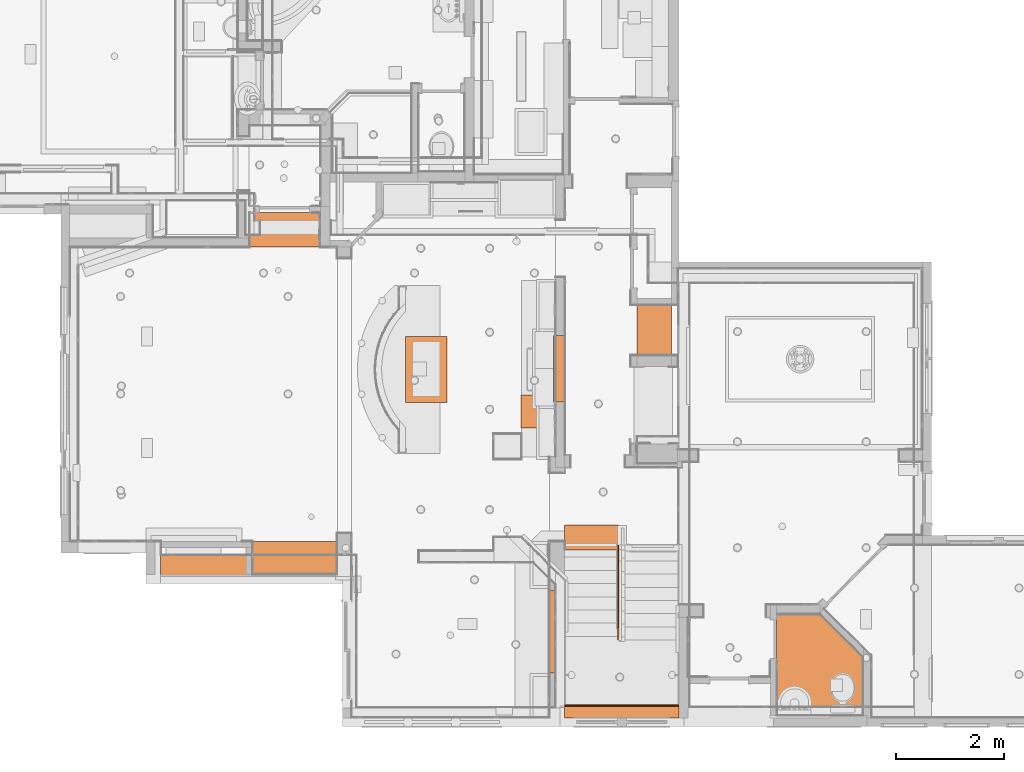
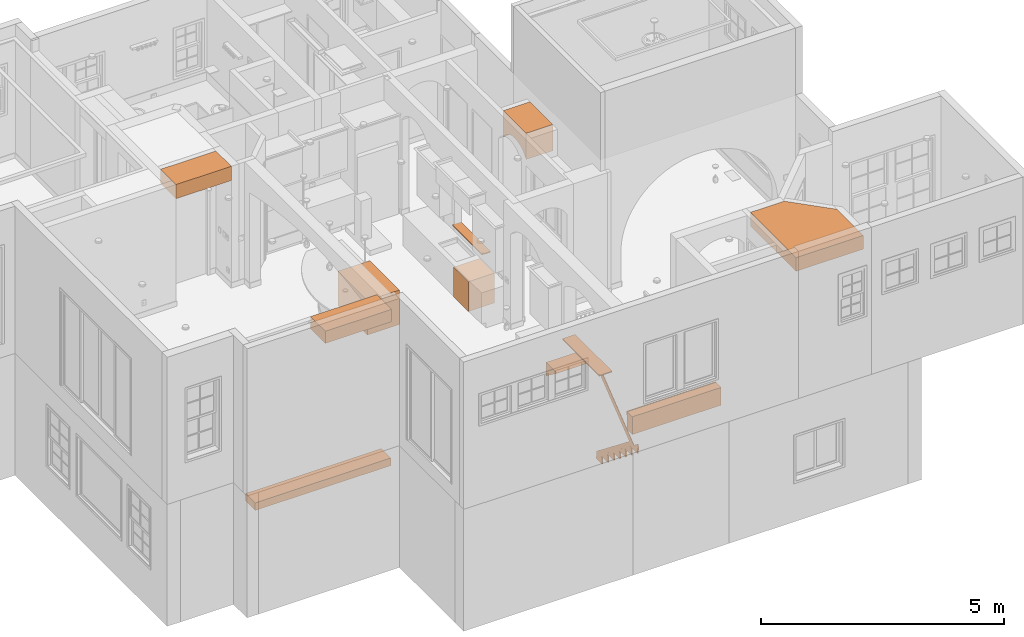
# One storey, part 60 of 81: 13 proxies.
"""IFC2X3 building model written with IfcOpenShell, lengths in feet."""

import ifcopenshell
import ifcopenshell.guid

model = None  # the IFC model being written
_history = None  # IfcOwnerHistory: only IFC2X3 demands one
_inside = {}  # id of a spatial element -> (the spatial element, [elements in it])
_under = {}  # id of a project, library or spatial element -> (it, [spatial elements below it])
_declared = {}  # id of a project -> (the project, [libraries it declares])
_typed = {}  # id of a type object -> (the type object, [elements of that type])
_made_of = {}  # id of a material, layer set ... -> (it, [elements and type objects made of it])


def new_model(schema):
    """Start an empty IFC model of exactly this schema.

    Asked for "IFC4X3", IfcOpenShell would pick the latest addendum, in which some entities
    have other attributes; the version numbers below select the first issue.
    IFC2X3 requires an IfcOwnerHistory on every rooted entity: one is made here for all.
    """
    global model, _history
    if schema == "IFC4X3":
        model = ifcopenshell.file(schema_version=(4, 3, 0, 0))
    else:
        model = ifcopenshell.file(schema=schema)
    _inside.clear()
    _under.clear()
    _declared.clear()
    _typed.clear()
    _made_of.clear()
    _history = None
    if model.schema == "IFC2X3":
        org = make("IfcOrganization", Name="unknown")
        user = make(
            "IfcPersonAndOrganization",
            ThePerson=make("IfcPerson", FamilyName="unknown"),
            TheOrganization=org,
        )
        app = make(
            "IfcApplication",
            ApplicationDeveloper=org,
            Version="unknown",
            ApplicationFullName="unknown",
            ApplicationIdentifier="unknown",
        )
        _history = make(
            "IfcOwnerHistory",
            OwningUser=user,
            OwningApplication=app,
            ChangeAction="ADDED",
            CreationDate=0,
        )
    return model


def make(cls, **values):
    """One entity of the class cls with the attributes given. An attribute that is None is left unset."""
    return model.create_entity(
        cls, **{name: value for name, value in values.items() if value is not None}
    )


def entity(cls, *values):
    """Any entity or typed value of the class cls, its attributes in the order of the schema. None: left unset."""
    e = model.create_entity(cls)
    for i, value in enumerate(values):
        if value is not None:
            e[i] = value
    return e


def rooted(cls, **values):
    """An entity with a GlobalId (a new one), such as an element, a storey or a relation."""
    return make(cls, GlobalId=ifcopenshell.guid.new(), OwnerHistory=_history, **values)


def si_unit(unit_type, name, prefix=None):
    """IfcSIUnit, for example si_unit("LENGTHUNIT", "METRE", prefix="MILLI")."""
    return make("IfcSIUnit", UnitType=unit_type, Prefix=prefix, Name=name)


def converted_unit(unit_type, name, factor, base, dimensions=None, offset=None):
    """IfcConversionBasedUnit, such as the inch: factor (a typed value) times the base unit."""
    return make(
        "IfcConversionBasedUnit"
        if offset is None
        else "IfcConversionBasedUnitWithOffset",
        ConversionOffset=offset,
        Dimensions=None
        if dimensions is None
        else entity("IfcDimensionalExponents", *dimensions),
        UnitType=unit_type,
        Name=name,
        ConversionFactor=make(
            "IfcMeasureWithUnit", ValueComponent=factor, UnitComponent=base
        ),
    )


def derived_unit(unit_type, elements):
    """IfcDerivedUnit: a product of units, each with its exponent."""
    return make(
        "IfcDerivedUnit",
        Elements=[
            make("IfcDerivedUnitElement", Unit=unit, Exponent=power)
            for unit, power in elements
        ],
        UnitType=unit_type,
    )


def assignment(units):
    """IfcUnitAssignment: the units of a project."""
    return None if units is None else make("IfcUnitAssignment", Units=units)


def point(xyz):
    """IfcCartesianPoint."""
    return None if xyz is None else make("IfcCartesianPoint", Coordinates=xyz)


def direction(xyz):
    """IfcDirection."""
    return None if xyz is None else make("IfcDirection", DirectionRatios=xyz)


def frame(location, z_axis=None, x_axis=None):
    """IfcAxis2Placement3D, a coordinate frame: its origin and axes. An axis left out is left unset."""
    return make(
        "IfcAxis2Placement3D",
        Location=point(location),
        Axis=direction(z_axis),
        RefDirection=direction(x_axis),
    )


def frame_2d(location, x_axis=None):
    """IfcAxis2Placement2D, a coordinate frame in the plane: its origin and x axis."""
    return make(
        "IfcAxis2Placement2D", Location=point(location), RefDirection=direction(x_axis)
    )


def origin():
    """The frame at (0, 0, 0) with its axes left unset."""
    return frame((0.0, 0.0, 0.0))


def origin_2d_with_axis():
    """The frame at (0, 0) in the plane with the x axis (1, 0) written out."""
    return frame_2d((0.0, 0.0), x_axis=(1.0, 0.0))


def place(relative_to, where):
    """IfcLocalPlacement: puts the frame where relative to a parent placement (None: the world)."""
    return make(
        "IfcLocalPlacement", PlacementRelTo=relative_to, RelativePlacement=where
    )


def context(
    kind, dimensions, precision=None, world=None, true_north=None, identifier=None
):
    """IfcGeometricRepresentationContext, for example the 3D "Model" context."""
    return make(
        "IfcGeometricRepresentationContext",
        ContextIdentifier=identifier,
        ContextType=kind,
        CoordinateSpaceDimension=dimensions,
        Precision=precision,
        WorldCoordinateSystem=world,
        TrueNorth=true_north,
    )


def subcontext(parent, identifier, kind, view, scale=None):
    """IfcGeometricRepresentationSubContext, for example "Body" below "Model"."""
    return make(
        "IfcGeometricRepresentationSubContext",
        ContextIdentifier=identifier,
        ContextType=kind,
        ParentContext=parent,
        TargetScale=scale,
        TargetView=view,
    )


def project(units=None, contexts=None):
    """IfcProject with its units and contexts."""
    return rooted(
        "IfcProject",
        Name="project",
        RepresentationContexts=contexts,
        UnitsInContext=assignment(units),
    )


def spatial(cls, under=None, at=None, **own):
    """A site, building, storey or space (cls), placed at a placement, below another one or the project."""
    s = rooted(cls, ObjectPlacement=at, **own)
    if under is not None:
        _under.setdefault(under.id(), (under, []))[1].append(s)
    return s


def polyline(points):
    """IfcPolyline through the points."""
    return make("IfcPolyline", Points=[point(p) for p in points])


def circle_curve(where, radius):
    """IfcCircle in the frame where."""
    return make("IfcCircle", Position=where, Radius=radius)


def parameter(value):
    """IfcParameterValue: where a trimmed curve begins or ends, as a parameter of its basis curve."""
    return model.create_entity("IfcParameterValue", value)


def trimmed(basis, trim1, trim2, sense, master):
    """IfcTrimmedCurve: the piece of a basis curve between two trims."""
    return make(
        "IfcTrimmedCurve",
        BasisCurve=basis,
        Trim1=trim1,
        Trim2=trim2,
        SenseAgreement=sense,
        MasterRepresentation=master,
    )


def segment(curve, same_sense, transition):
    """IfcCompositeCurveSegment."""
    return make(
        "IfcCompositeCurveSegment",
        Transition=transition,
        SameSense=same_sense,
        ParentCurve=curve,
    )


def composite_curve(segments, self_intersect=None):
    """IfcCompositeCurve: segments joined end to end."""
    return make("IfcCompositeCurve", Segments=segments, SelfIntersect=self_intersect)


def profile(cls, at=None, kind="AREA", **sizes):
    """A parametric profile (cls). Its sizes go by their IFC names, for example OverallWidth=200.0."""
    return make(cls, ProfileType=kind, Position=at, **sizes)


def rectangle(**sizes):
    """IfcRectangleProfileDef."""
    return profile("IfcRectangleProfileDef", **sizes)


def outline(outer, holes=None, kind="AREA"):
    """IfcArbitraryClosedProfileDef: a profile drawn as a closed curve; with holes, ...WithVoids."""
    if holes is None:
        return make("IfcArbitraryClosedProfileDef", ProfileType=kind, OuterCurve=outer)
    return make(
        "IfcArbitraryProfileDefWithVoids",
        ProfileType=kind,
        OuterCurve=outer,
        InnerCurves=holes,
    )


def extrude(swept, where, along, depth):
    """IfcExtrudedAreaSolid: the profile swept, set in the frame where, extruded along a direction by depth."""
    return make(
        "IfcExtrudedAreaSolid",
        SweptArea=swept,
        Position=where,
        ExtrudedDirection=direction(along),
        Depth=depth,
    )


def shape(context_of_items, identifier, shape_type, items):
    """IfcShapeRepresentation: the items that make up one representation, for example the "Body"."""
    return make(
        "IfcShapeRepresentation",
        ContextOfItems=context_of_items,
        RepresentationIdentifier=identifier,
        RepresentationType=shape_type,
        Items=items,
    )


def source(mapping_origin, context_of_items, identifier, shape_type, items):
    """IfcRepresentationMap: a shape defined once, which mapped items show again and again."""
    return make(
        "IfcRepresentationMap",
        MappingOrigin=mapping_origin,
        MappedRepresentation=shape(context_of_items, identifier, shape_type, items),
    )


def transform(
    local_origin,
    x_axis=None,
    y_axis=None,
    z_axis=None,
    scale=None,
    scale2=None,
    scale3=None,
    uniform=True,
):
    """IfcCartesianTransformationOperator3D, or its non-uniform kind. x_axis, y_axis, z_axis: its Axis1, 2, 3."""
    if uniform:
        return make(
            "IfcCartesianTransformationOperator3D",
            Axis1=direction(x_axis),
            Axis2=direction(y_axis),
            LocalOrigin=point(local_origin),
            Scale=scale,
            Axis3=direction(z_axis),
        )
    return make(
        "IfcCartesianTransformationOperator3DnonUniform",
        Axis1=direction(x_axis),
        Axis2=direction(y_axis),
        LocalOrigin=point(local_origin),
        Scale=scale,
        Axis3=direction(z_axis),
        Scale2=scale2,
        Scale3=scale3,
    )


def mapped(mapping_source, mapping_target):
    """IfcMappedItem: shows the shape of a source again, moved by a transform."""
    return make(
        "IfcMappedItem", MappingSource=mapping_source, MappingTarget=mapping_target
    )


def material(Name=None, Category=None):
    """IfcMaterial."""
    return make("IfcMaterial", Name=Name, Category=Category)


def made_of(thing, what):
    """Note that an element or type object is made of a material, layer set ...; save() writes the relation."""
    if what is not None:
        _made_of.setdefault(what.id(), (what, []))[1].append(thing)
    return thing


def type_object(cls, material=None, **own):
    """A type object (cls), such as IfcWallType, which elements share."""
    return made_of(rooted(cls, **own), material)


def type_shapes(of_type, sources):
    """Give a type object the sources (RepresentationMaps) that its elements show as mapped items."""
    of_type.RepresentationMaps = sources


def element(
    cls,
    number,
    at=None,
    inside=None,
    cuts=None,
    type_object=None,
    material=None,
    context=None,
    identifier="Body",
    shape_type=None,
    held_by="IfcProductDefinitionShape",
    body=None,
    shapes=None,
    **own,
):
    """One element of the class cls, such as IfcWall. Its Tag is "e" and its number.

    at: its placement. inside: the storey or other place that contains it. cuts: it is an
    opening in that element (IfcRelVoidsElement). A single representation is given by context,
    identifier, shape_type and body (its items); several are given by shapes. held_by: the class
    of the entity that holds the representations. save() writes the other relations.
    """
    e = rooted(cls, Tag="e%d" % number, ObjectPlacement=at, **own)
    if body is not None:
        shapes = [shape(context, identifier, shape_type, body)]
    if shapes is not None:
        e.Representation = make(held_by, Representations=shapes)
    if inside is not None:
        _inside.setdefault(inside.id(), (inside, []))[1].append(e)
    if cuts is not None:
        rooted(
            "IfcRelVoidsElement", RelatingBuildingElement=cuts, RelatedOpeningElement=e
        )
    if type_object is not None:
        _typed.setdefault(type_object.id(), (type_object, []))[1].append(e)
    return made_of(e, material)


def aggregate(whole, parts):
    """IfcRelAggregates: a whole, such as a stair, and the parts it consists of."""
    return rooted("IfcRelAggregates", RelatingObject=whole, RelatedObjects=parts)


def save(model, path):
    """Write the relations noted so far, then the file.

    IfcRelAggregates (storeys below a building ...), IfcRelContainedInSpatialStructure (elements
    in a storey), IfcRelDefinesByType, IfcRelAssociatesMaterial and IfcRelDeclares: one each for
    every whole, place, type object, material and project.
    """
    for whole, parts in _under.values():
        aggregate(whole, parts)
    for where, things in _inside.values():
        rooted(
            "IfcRelContainedInSpatialStructure",
            RelatedElements=things,
            RelatingStructure=where,
        )
    for kind, things in _typed.values():
        rooted("IfcRelDefinesByType", RelatedObjects=things, RelatingType=kind)
    for what, things in _made_of.values():
        rooted("IfcRelAssociatesMaterial", RelatedObjects=things, RelatingMaterial=what)
    for by, libraries in _declared.values():
        rooted("IfcRelDeclares", RelatingContext=by, RelatedDefinitions=libraries)
    model.write(path)


model = new_model("IFC2X3")

# Units and contexts
model_context = context("Model", 3, precision=0.0001, world=origin(), true_north=direction((6.12303176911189e-17, 1.0)))
body_context = subcontext(model_context, "Body", "Model", "MODEL_VIEW")
ifc_project = project(units=[converted_unit("LENGTHUNIT", "FOOT", entity("IfcRatioMeasure", 0.3048), si_unit("LENGTHUNIT", "METRE"), dimensions=[1, 0, 0, 0, 0, 0, 0]), converted_unit("AREAUNIT", "SQUARE FOOT", entity("IfcRatioMeasure", 0.09290304), si_unit("AREAUNIT", "SQUARE_METRE"), dimensions=[2, 0, 0, 0, 0, 0, 0]), converted_unit("VOLUMEUNIT", "CUBIC FOOT", entity("IfcRatioMeasure", 0.028316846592), si_unit("VOLUMEUNIT", "CUBIC_METRE"), dimensions=[3, 0, 0, 0, 0, 0, 0]), converted_unit("PLANEANGLEUNIT", "DEGREE", entity("IfcRatioMeasure", 0.0174532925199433), si_unit("PLANEANGLEUNIT", "RADIAN"), dimensions=[0, 0, 0, 0, 0, 0, 0]), si_unit("MASSUNIT", "GRAM", prefix="KILO"), derived_unit("MASSDENSITYUNIT", [(si_unit("MASSUNIT", "GRAM", prefix="KILO"), 1), (si_unit("LENGTHUNIT", "METRE"), -3)]), derived_unit("MOMENTOFINERTIAUNIT", [(si_unit("LENGTHUNIT", "METRE"), 4)]), si_unit("TIMEUNIT", "SECOND"), si_unit("FREQUENCYUNIT", "HERTZ"), si_unit("THERMODYNAMICTEMPERATUREUNIT", "DEGREE_CELSIUS"), derived_unit("THERMALTRANSMITTANCEUNIT", [(si_unit("MASSUNIT", "GRAM", prefix="KILO"), 1), (si_unit("THERMODYNAMICTEMPERATUREUNIT", "KELVIN"), -1), (si_unit("TIMEUNIT", "SECOND"), -3)]), derived_unit("VOLUMETRICFLOWRATEUNIT", [(si_unit("LENGTHUNIT", "METRE"), 3), (si_unit("TIMEUNIT", "SECOND"), -1)]), si_unit("ELECTRICCURRENTUNIT", "AMPERE"), si_unit("ELECTRICVOLTAGEUNIT", "VOLT"), si_unit("POWERUNIT", "WATT"), si_unit("FORCEUNIT", "NEWTON"), si_unit("ILLUMINANCEUNIT", "LUX"), si_unit("LUMINOUSFLUXUNIT", "LUMEN"), si_unit("LUMINOUSINTENSITYUNIT", "CANDELA"), derived_unit("USERDEFINED", [(si_unit("MASSUNIT", "GRAM", prefix="KILO"), -1), (si_unit("LENGTHUNIT", "METRE"), -2), (si_unit("TIMEUNIT", "SECOND"), 3), (si_unit("LUMINOUSFLUXUNIT", "LUMEN"), 1)]), derived_unit("LINEARVELOCITYUNIT", [(si_unit("LENGTHUNIT", "METRE"), 1), (si_unit("TIMEUNIT", "SECOND"), -1)]), si_unit("PRESSUREUNIT", "PASCAL"), derived_unit("USERDEFINED", [(si_unit("LENGTHUNIT", "METRE"), -2), (si_unit("MASSUNIT", "GRAM", prefix="KILO"), 1), (si_unit("TIMEUNIT", "SECOND"), -2)]), derived_unit("LINEARFORCEUNIT", [(si_unit("MASSUNIT", "GRAM", prefix="KILO"), 1), (si_unit("LENGTHUNIT", "METRE"), 1), (si_unit("TIMEUNIT", "SECOND"), -2), (si_unit("LENGTHUNIT", "METRE"), -1)]), derived_unit("PLANARFORCEUNIT", [(si_unit("MASSUNIT", "GRAM", prefix="KILO"), 1), (si_unit("LENGTHUNIT", "METRE"), 1), (si_unit("TIMEUNIT", "SECOND"), -2), (si_unit("LENGTHUNIT", "METRE"), -2)])], contexts=[model_context])

# Site, building, storey
site_placement = place(None, origin())
site = spatial("IfcSite", under=ifc_project, at=site_placement, Name="Default", CompositionType="ELEMENT")
building_placement = place(site_placement, origin())
building = spatial("IfcBuilding", under=site, at=building_placement, CompositionType="ELEMENT")
storey_placement = place(building_placement, origin())
storey = spatial("IfcBuildingStorey", under=building, at=storey_placement, Name="First floor", CompositionType="ELEMENT", Elevation=0.0)

# Proxies
ifc_material = material(Name="Default New Material")
building_element_proxy_type_1 = type_object("IfcBuildingElementProxyType", Name="Generic Models 7:Generic Models 7", PredefinedType="NOTDEFINED", material=ifc_material)
shared_shape_1 = source(origin(), body_context, "Body", "SweptSolid", [
    extrude(outline(polyline([(-3.79772185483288, -0.262282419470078), (3.41282601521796, -0.262282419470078), (3.27919458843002, -0.0924508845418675), (3.34468506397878, -0.0409199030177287), (3.16800749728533, 0.183618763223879), (3.14457551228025, -0.0128099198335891), (2.84666202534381, 0.365806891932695), (2.15433428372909, -0.178949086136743), (2.11568604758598, -0.129831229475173), (2.1296455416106, -0.0128097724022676), (1.83173205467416, 0.365807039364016), (1.13940393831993, -0.178949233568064), (1.10075570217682, -0.129831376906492), (1.11471519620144, -0.0128099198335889), (0.816801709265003, 0.365806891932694), (0.124473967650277, -0.178949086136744), (0.085825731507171, -0.129831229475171), (0.0997852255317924, -0.0128097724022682), (-0.198128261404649, 0.365807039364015), (-0.890456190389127, -0.178949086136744), (-0.929104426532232, -0.129831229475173), (-0.915144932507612, -0.0128097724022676), (-1.21305841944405, 0.365807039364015), (-1.90538634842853, -0.178949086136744), (-1.94403458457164, -0.129831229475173), (-1.93007509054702, -0.0128097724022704), (-2.22798857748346, 0.365807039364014), (-2.92031641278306, -0.178949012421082), (-2.95896464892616, -0.12983115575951), (-2.94500515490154, -0.0128096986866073), (-3.24291864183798, 0.365807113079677), (-3.89080655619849, -0.143981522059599), (-3.79772185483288, -0.262282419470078)])), frame((16.6666666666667, 7.85323663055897, 3.54802028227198), z_axis=(1.0, 0.0, 0.0), x_axis=(0.0, -0.785885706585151, 0.618371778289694)), (0.0, 0.0, 1.0), 0.0416666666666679),
    extrude(outline(polyline([(-2.64117117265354, -2.66029491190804), (-2.06648934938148, -2.66029491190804), (1.41377970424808, 1.76276222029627), (4.52028716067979, -2.18624603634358), (4.52028716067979, -2.66029491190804), (5.42333804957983, -2.66029491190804), (1.4668319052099, 2.36923604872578), (1.92366585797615, 2.94982411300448), (1.12445382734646, 2.94982411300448), (1.12445382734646, 2.06887191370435), (1.06195382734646, 2.06887191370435), (0.978620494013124, 2.15220524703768), (0.496849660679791, 2.15220524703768), (0.496849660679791, 1.2712525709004), (0.434349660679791, 1.2712525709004), (0.351016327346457, 1.35458590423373), (-0.130754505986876, 1.35458590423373), (-0.130754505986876, 0.473633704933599), (-0.193254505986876, 0.473633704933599), (-0.276587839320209, 0.556967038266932), (-0.758358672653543, 0.556967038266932), (-0.758358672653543, -0.323985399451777), (-0.820858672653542, -0.323985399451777), (-0.904192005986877, -0.240652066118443), (-1.38596283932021, -0.240652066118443), (-1.38596283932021, -1.12160450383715), (-1.44846283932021, -1.12160450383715), (-1.53179617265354, -1.03827117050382), (-2.01356700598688, -1.03827117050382), (-2.01356700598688, -1.91922348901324), (-2.07606700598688, -1.91922348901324), (-2.15940033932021, -1.8358901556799), (-2.64117117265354, -1.8358901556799), (-2.64117117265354, -2.66029491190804)])), frame((16.7083333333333, 8.33970508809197, 3.89637950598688), z_axis=(1.0, 0.0, 0.0), x_axis=(0.0, 0.0, 1.0)), (0.0, 0.0, 1.0), 0.0416666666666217),
])
type_shapes(building_element_proxy_type_1, [shared_shape_1])
proxy_1_placement = place(storey_placement, origin())
element("IfcBuildingElementProxy", 1, at=proxy_1_placement, inside=storey, type_object=building_element_proxy_type_1, material=ifc_material, Name="Generic Models 7:Generic Models 7", ObjectType="Generic Models 7:Generic Models 7", context=body_context, shape_type="MappedRepresentation", body=[
    mapped(shared_shape_1, transform((0.0, 0.0, 0.0), scale=1.0)),
])
building_element_proxy_type_2 = type_object("IfcBuildingElementProxyType", Name="Generic Models 12:Generic Models 12", PredefinedType="NOTDEFINED", material=ifc_material)
shared_shape_2 = source(origin(), body_context, "Body", "SweptSolid", [
    extrude(rectangle(XDim=0.708333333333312, YDim=6.91666666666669, at=frame_2d((1.99840144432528e-15, -8.88178419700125e-16), x_axis=(1.0, 0.0))), frame((16.9166666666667, 0.895833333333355, 10.6666666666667), z_axis=(0.0, 0.0, 1.0), x_axis=(0.0, 1.0, 0.0)), (0.0, 0.0, 1.0), 1.45833333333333),
])
type_shapes(building_element_proxy_type_2, [shared_shape_2])
proxy_2_placement = place(storey_placement, origin())
element("IfcBuildingElementProxy", 2, at=proxy_2_placement, inside=storey, type_object=building_element_proxy_type_2, material=ifc_material, Name="Generic Models 12:Generic Models 12", ObjectType="Generic Models 12:Generic Models 12", context=body_context, shape_type="MappedRepresentation", body=[
    mapped(shared_shape_2, transform((0.0, 0.0, 0.0), scale=1.0)),
])
building_element_proxy_type_3 = type_object("IfcBuildingElementProxyType", Name="Generic Models 23:Generic Models 16", PredefinedType="NOTDEFINED", material=ifc_material)
shared_shape_3 = source(origin(), body_context, "Body", "SweptSolid", [
    extrude(outline(polyline([(-2.98939935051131, -2.62726731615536), (3.17726731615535, -2.62726731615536), (3.17726731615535, 2.62273268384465), (-0.375735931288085, 2.62273268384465), (-2.98939935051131, 0.00906926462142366), (-2.98939935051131, -2.62726731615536)])), frame((28.918933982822, 3.84393398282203, 19.5416666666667), z_axis=(0.0, 0.0, 1.0), x_axis=(0.0, -1.0, 0.0)), (0.0, 0.0, 1.0), 1.125),
])
type_shapes(building_element_proxy_type_3, [shared_shape_3])
proxy_3_placement = place(storey_placement, origin())
element("IfcBuildingElementProxy", 3, at=proxy_3_placement, inside=storey, type_object=building_element_proxy_type_3, material=ifc_material, Name="Generic Models 23:Generic Models 16", ObjectType="Generic Models 23:Generic Models 16", context=body_context, shape_type="MappedRepresentation", body=[
    mapped(shared_shape_3, transform((0.0, 0.0, 0.0), scale=1.0)),
])
building_element_proxy_type_4 = type_object("IfcBuildingElementProxyType", Name="Generic Models 30:Generic Models 30", PredefinedType="NOTDEFINED", material=ifc_material)
shared_shape_4 = source(origin(), body_context, "Body", "SweptSolid", [
    extrude(outline(composite_curve([segment(polyline([(-0.124336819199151, -0.0707537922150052), (0.208996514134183, -0.0707537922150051)]), True, "CONTINUOUS"), segment(trimmed(circle_curve(frame_2d((0.174117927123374, -0.0625657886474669), x_axis=(0.0, 1.0)), 0.0358267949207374), [parameter(256.788626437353)], [parameter(339.140882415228)], True, "PARAMETER"), True, "CONTINUOUS"), segment(polyline([(0.186874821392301, -0.0290871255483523), (0.11972539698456, -0.0290871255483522)]), True, "CONTINUOUS"), segment(polyline([(0.119725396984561, -0.0290871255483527), (0.120046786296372, -0.0208087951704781)]), True, "CONTINUOUS"), segment(polyline([(0.120046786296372, -0.0208087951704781), (0.116445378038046, -0.0141128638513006)]), True, "CONTINUOUS"), segment(polyline([(0.116445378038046, -0.0141128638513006), (0.109414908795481, -0.00880682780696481)]), True, "CONTINUOUS"), segment(polyline([(0.109414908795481, -0.00880682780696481), (0.0994491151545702, -0.00469818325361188)]), True, "CONTINUOUS"), segment(polyline([(0.0994491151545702, -0.00469818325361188), (0.0870417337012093, -0.00159442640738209)]), True, "CONTINUOUS"), segment(polyline([(0.0870417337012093, -0.00159442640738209), (0.0726865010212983, 0.000696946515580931)]), True, "CONTINUOUS"), segment(polyline([(0.0726865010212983, 0.000696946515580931), (0.0568771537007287, 0.00236843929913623)]), True, "CONTINUOUS"), segment(polyline([(0.0568771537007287, 0.00236843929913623), (-0.0110266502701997, 0.00670568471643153)]), True, "CONTINUOUS"), segment(polyline([(-0.0110266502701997, 0.00670568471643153), (-0.026700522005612, 0.00816533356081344)]), True, "CONTINUOUS"), segment(polyline([(-0.026700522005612, 0.00816533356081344), (-0.0409179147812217, 0.0101263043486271)]), True, "CONTINUOUS"), segment(polyline([(-0.0409179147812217, 0.0101263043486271), (-0.0536243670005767, 0.0124944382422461)]), True, "CONTINUOUS"), segment(polyline([(-0.0536243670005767, 0.0124944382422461), (-0.0649408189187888, 0.0150611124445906)]), True, "CONTINUOUS"), segment(polyline([(-0.0649408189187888, 0.0150611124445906), (-0.0838909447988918, 0.0199533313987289)]), True, "CONTINUOUS"), segment(polyline([(-0.0838909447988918, 0.0199533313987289), (-0.091768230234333, 0.0218605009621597)]), True, "CONTINUOUS"), segment(polyline([(-0.091768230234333, 0.0218605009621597), (-0.0987427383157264, 0.023129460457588)]), True, "CONTINUOUS"), segment(polyline([(-0.0987427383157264, 0.023129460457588), (-0.104936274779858, 0.0235510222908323)]), True, "CONTINUOUS"), segment(polyline([(-0.104936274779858, 0.0235510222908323), (-0.11047064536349, 0.0229159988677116)]), True, "CONTINUOUS"), segment(polyline([(-0.11047064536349, 0.0229159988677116), (-0.1154676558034, 0.0210152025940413)]), True, "CONTINUOUS"), segment(polyline([(-0.1154676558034, 0.0210152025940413), (-0.120049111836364, 0.0176394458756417)]), True, "CONTINUOUS"), segment(polyline([(-0.120049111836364, 0.0176394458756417), (-0.124336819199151, 0.0125795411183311)]), True, "CONTINUOUS"), segment(polyline([(-0.124336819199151, 0.0125795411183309), (-0.124336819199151, -0.0707537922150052)]), True, "CONTINUOUS")], self_intersect=False)), frame((13.4583333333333, 1.32075379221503, 12.0006631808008), z_axis=(1.0, 0.0, 0.0), x_axis=(0.0, 0.0, -1.0)), (0.0, 0.0, 1.0), 6.91666666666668),
])
type_shapes(building_element_proxy_type_4, [shared_shape_4])
proxy_4_placement = place(storey_placement, origin())
element("IfcBuildingElementProxy", 4, at=proxy_4_placement, inside=storey, type_object=building_element_proxy_type_4, material=ifc_material, Name="Generic Models 30:Generic Models 30", ObjectType="Generic Models 30:Generic Models 30", context=body_context, shape_type="MappedRepresentation", body=[
    mapped(shared_shape_4, transform((0.0, 0.0, 0.0), scale=1.0)),
])
building_element_proxy_type_5 = type_object("IfcBuildingElementProxyType", Name="Specialty Equipment_1:Specialty Equipment_1", PredefinedType="NOTDEFINED", material=ifc_material)
shared_shape_5 = source(origin(), body_context, "Body", "SweptSolid", [
    extrude(rectangle(XDim=4.0, YDim=2.5, at=origin_2d_with_axis()), frame((0.0, -1.25, 0.0), z_axis=(0.0, 0.0, 1.0), x_axis=(-1.0, 0.0, 0.0)), (0.0, 0.0, 1.0), 2.83333333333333),
])
type_shapes(building_element_proxy_type_5, [shared_shape_5])
proxy_5_placement = place(storey_placement, frame((3.83333333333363, 21.625, 10.6666666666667), z_axis=(0.0, 0.0, 1.0), x_axis=(0.0, 1.0, 0.0)))
element("IfcBuildingElementProxy", 5, at=proxy_5_placement, inside=storey, type_object=building_element_proxy_type_5, material=ifc_material, Name="Specialty Equipment_1:Specialty Equipment_1", ObjectType="Specialty Equipment_1:Specialty Equipment_1", context=body_context, shape_type="MappedRepresentation", body=[
    mapped(shared_shape_5, transform((0.0, 0.0, 0.0), scale=1.0)),
])
building_element_proxy_type_6 = type_object("IfcBuildingElementProxyType", Name="Generic Models 38:Generic Models 38", PredefinedType="NOTDEFINED", material=ifc_material)
shared_shape_6 = source(origin(), body_context, "Body", "SweptSolid", [
    extrude(rectangle(XDim=1.29166666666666, YDim=10.5833333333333, at=frame_2d((8.88178419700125e-16, 4.44089209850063e-16), x_axis=(1.0, 0.0))), frame((-5.70833333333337, 9.72916666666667, 7.79166666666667), z_axis=(0.0, 0.0, 1.0), x_axis=(0.0, -1.0, 0.0)), (0.0, 0.0, 1.0), 0.625),
])
type_shapes(building_element_proxy_type_6, [shared_shape_6])
proxy_6_placement = place(storey_placement, origin())
element("IfcBuildingElementProxy", 6, at=proxy_6_placement, inside=storey, type_object=building_element_proxy_type_6, material=ifc_material, Name="Generic Models 38:Generic Models 38", ObjectType="Generic Models 38:Generic Models 38", context=body_context, shape_type="MappedRepresentation", body=[
    mapped(shared_shape_6, transform((0.0, 0.0, 0.0), scale=1.0)),
])
building_element_proxy_type_7 = type_object("IfcBuildingElementProxyType", Name="Generic Models 52:Generic Models 52", PredefinedType="NOTDEFINED", material=ifc_material)
shared_shape_7 = source(origin(), body_context, "Body", "SweptSolid", [
    extrude(outline(composite_curve([segment(polyline([(-1.08333333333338, -1.54166666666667), (1.08333333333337, -1.54166666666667)]), True, "CONTINUOUS"), segment(trimmed(circle_curve(frame_2d((2.09270833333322, 0.0), x_axis=(0.0, -1.0)), 1.84270833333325), [parameter(213.21396115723)], [parameter(326.78603884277)], True, "PARAMETER"), False, "CONTINUOUS"), segment(polyline([(1.08333333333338, 1.54166666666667), (-1.08333333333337, 1.54166666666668)]), True, "CONTINUOUS"), segment(polyline([(-1.08333333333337, 1.54166666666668), (-1.08333333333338, -1.54166666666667)]), True, "CONTINUOUS")], self_intersect=False)), frame((17.8333333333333, 23.9996548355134, 19.5833333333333), z_axis=(1.0, 0.0, 0.0), x_axis=(0.0, 0.0, -1.0)), (0.0, 0.0, 1.0), 2.08333333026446),
])
type_shapes(building_element_proxy_type_7, [shared_shape_7])
proxy_7_placement = place(storey_placement, origin())
element("IfcBuildingElementProxy", 7, at=proxy_7_placement, inside=storey, type_object=building_element_proxy_type_7, material=ifc_material, Name="Generic Models 52:Generic Models 52", ObjectType="Generic Models 52:Generic Models 52", context=body_context, shape_type="MappedRepresentation", body=[
    mapped(shared_shape_7, transform((0.0, 0.0, 0.0), scale=1.0)),
])
building_element_proxy_type_8 = type_object("IfcBuildingElementProxyType", Name="Generic Models 56:Generic Models 56", PredefinedType="NOTDEFINED", material=ifc_material)
shared_shape_8 = source(origin(), body_context, "Body", "SweptSolid", [
    extrude(outline(polyline([(-0.470833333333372, -2.38333333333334), (0.0708333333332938, -2.38333333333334), (0.112499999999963, -2.38333333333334), (0.195833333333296, -2.38333333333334), (0.195833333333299, 1.61666666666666), (0.112500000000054, 1.61666666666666), (0.112500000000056, 1.53333333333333), (0.0708333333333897, 1.53333333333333), (0.0708333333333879, 1.61666666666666), (-0.470833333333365, 1.61666666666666), (-0.470833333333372, -2.38333333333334)])), frame((12.9874999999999, 21.2829881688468, 14.0833333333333), z_axis=(0.0, 0.0, 1.0), x_axis=(-1.0, 0.0, 0.0)), (0.0, 0.0, 1.0), 0.0833333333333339),
])
type_shapes(building_element_proxy_type_8, [shared_shape_8])
proxy_8_placement = place(storey_placement, origin())
element("IfcBuildingElementProxy", 8, at=proxy_8_placement, inside=storey, type_object=building_element_proxy_type_8, material=ifc_material, Name="Generic Models 56:Generic Models 56", ObjectType="Generic Models 56:Generic Models 56", context=body_context, shape_type="MappedRepresentation", body=[
    mapped(shared_shape_8, transform((0.0, 0.0, 0.0), scale=1.0)),
])
building_element_proxy_type_9 = type_object("IfcBuildingElementProxyType", Name="Specialty Equipment_1:Specialty Equipment_1", PredefinedType="NOTDEFINED", material=ifc_material)
shared_shape_9 = source(origin(), body_context, "Body", "SweptSolid", [
    extrude(rectangle(XDim=2.0, YDim=2.04166666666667, at=origin_2d_with_axis()), frame((0.0, -1.02083333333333, 0.0), z_axis=(0.0, 0.0, 1.0), x_axis=(-1.0, 0.0, 0.0)), (0.0, 0.0, 1.0), 2.45833333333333),
])
type_shapes(building_element_proxy_type_9, [shared_shape_9])
proxy_9_placement = place(storey_placement, frame((10.8125, 19.0881965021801, 11.0833333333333), z_axis=(0.0, 0.0, 1.0), x_axis=(0.0, 1.0, 0.0)))
element("IfcBuildingElementProxy", 9, at=proxy_9_placement, inside=storey, type_object=building_element_proxy_type_9, material=ifc_material, Name="Specialty Equipment_1:Specialty Equipment_1", ObjectType="Specialty Equipment_1:Specialty Equipment_1", context=body_context, shape_type="MappedRepresentation", body=[
    mapped(shared_shape_9, transform((0.0, 0.0, 0.0), scale=1.0)),
])
building_element_proxy_type_10 = type_object("IfcBuildingElementProxyType", Name="Generic Models 61:Generic Models 61", PredefinedType="NOTDEFINED", material=ifc_material)
shared_shape_10 = source(origin(), body_context, "Body", "SweptSolid", [
    extrude(rectangle(XDim=5.16666666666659, YDim=1.99999999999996, at=frame_2d((-2.22044604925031e-16, -8.88178419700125e-16), x_axis=(1.0, 0.0))), frame((-2.87499999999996, 10.2083333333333, 19.5416666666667), z_axis=(0.0, 0.0, 1.0), x_axis=(-1.0, 0.0, 0.0)), (0.0, 0.0, 1.0), 1.0),
])
type_shapes(building_element_proxy_type_10, [shared_shape_10])
proxy_10_placement = place(storey_placement, origin())
element("IfcBuildingElementProxy", 10, at=proxy_10_placement, inside=storey, type_object=building_element_proxy_type_10, material=ifc_material, Name="Generic Models 61:Generic Models 61", ObjectType="Generic Models 61:Generic Models 61", context=body_context, shape_type="MappedRepresentation", body=[
    mapped(shared_shape_10, transform((0.0, 0.0, 0.0), scale=1.0)),
])
building_element_proxy_type_11 = type_object("IfcBuildingElementProxyType", Name="Generic Models 65:Generic Models 65", PredefinedType="NOTDEFINED", material=ifc_material)
shared_shape_11 = source(origin(), body_context, "Body", "SweptSolid", [
    extrude(outline(polyline([(-0.791666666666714, -2.49999999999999), (0.125000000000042, -2.49999999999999), (0.125000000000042, -2.41666666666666), (0.166666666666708, -2.41666666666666), (0.166666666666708, -2.49999999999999), (0.208333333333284, -2.49999999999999), (0.208333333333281, 2.49999999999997), (0.166666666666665, 2.49999999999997), (0.166666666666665, 2.41666666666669), (0.125000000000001, 2.41666666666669), (0.124999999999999, 2.49999999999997), (-0.791666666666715, 2.49999999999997), (-0.791666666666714, -2.49999999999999)])), frame((12.6666666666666, 5.75000000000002, 14.1666666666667), z_axis=(0.0, 0.0, 1.0), x_axis=(-1.0, 0.0, 0.0)), (0.0, 0.0, 1.0), 0.0833333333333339),
])
type_shapes(building_element_proxy_type_11, [shared_shape_11])
proxy_11_placement = place(storey_placement, origin())
element("IfcBuildingElementProxy", 11, at=proxy_11_placement, inside=storey, type_object=building_element_proxy_type_11, material=ifc_material, Name="Generic Models 65:Generic Models 65", ObjectType="Generic Models 65:Generic Models 65", context=body_context, shape_type="MappedRepresentation", body=[
    mapped(shared_shape_11, transform((0.0, 0.0, 0.0), scale=1.0)),
])
building_element_proxy_type_12 = type_object("IfcBuildingElementProxyType", Name="Generic Models 66:Generic Models 66", PredefinedType="NOTDEFINED", material=ifc_material)
shared_shape_12 = source(origin(), body_context, "Body", "SweptSolid", [
    extrude(rectangle(XDim=4.31250000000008, YDim=2.08333333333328, at=origin_2d_with_axis()), frame((-3.48958333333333, 30.0833333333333, 19.5)), (0.0, 0.0, 1.0), 1.16666666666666),
])
type_shapes(building_element_proxy_type_12, [shared_shape_12])
proxy_12_placement = place(storey_placement, origin())
element("IfcBuildingElementProxy", 12, at=proxy_12_placement, inside=storey, type_object=building_element_proxy_type_12, material=ifc_material, Name="Generic Models 66:Generic Models 66", ObjectType="Generic Models 66:Generic Models 66", context=body_context, shape_type="MappedRepresentation", body=[
    mapped(shared_shape_12, transform((0.0, 0.0, 0.0), scale=1.0)),
])
building_element_proxy_type_13 = type_object("IfcBuildingElementProxyType", Name="Generic Models 67:Generic Models 67", PredefinedType="NOTDEFINED", material=ifc_material)
shared_shape_13 = source(origin(), body_context, "Body", "SweptSolid", [
    extrude(outline(polyline([(-0.499999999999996, -0.375), (1.0, -0.375), (-0.499999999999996, 0.75), (-0.499999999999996, -0.375)])), frame((13.4583333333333, 11.7083333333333, 9.16666666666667), z_axis=(1.0, 0.0, 0.0), x_axis=(0.0, -1.0, 0.0)), (0.0, 0.0, 1.0), 3.25000000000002),
])
type_shapes(building_element_proxy_type_13, [shared_shape_13])
proxy_13_placement = place(storey_placement, origin())
element("IfcBuildingElementProxy", 13, at=proxy_13_placement, inside=storey, type_object=building_element_proxy_type_13, material=ifc_material, Name="Generic Models 67:Generic Models 67", ObjectType="Generic Models 67:Generic Models 67", context=body_context, shape_type="MappedRepresentation", body=[
    mapped(shared_shape_13, transform((0.0, 0.0, 0.0), scale=1.0)),
])

save(model, "model.ifc")
